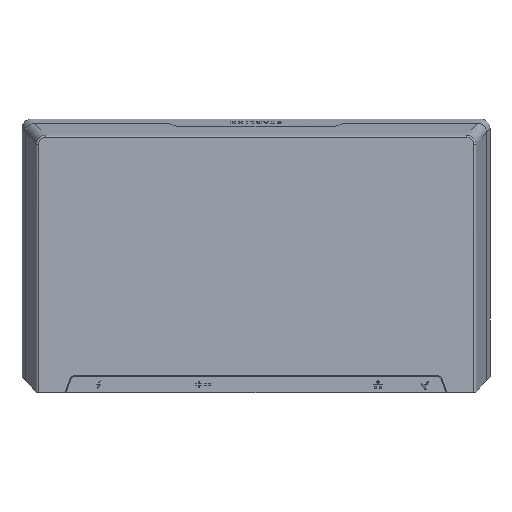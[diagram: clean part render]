
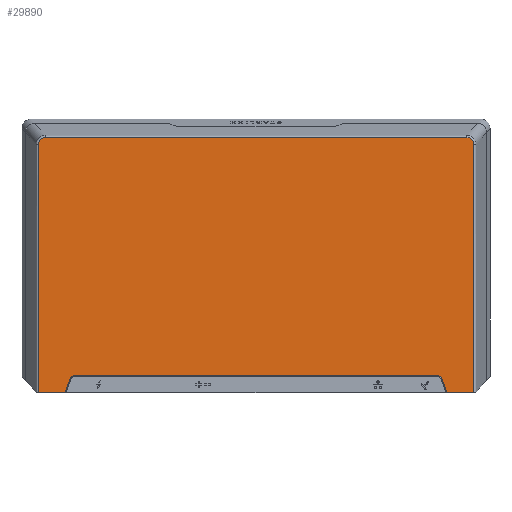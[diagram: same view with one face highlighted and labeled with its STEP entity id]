
A CAD part, top view. The second image highlights one B-rep face of the part: STEP entity #29890.
In plain terms, the highlighted planar face has unit normal (0, 0, 1).
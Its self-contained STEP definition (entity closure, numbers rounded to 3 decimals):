
#2070=PLANE('',#130590);
#12308=(
BOUNDED_CURVE()
B_SPLINE_CURVE(2,(#248960,#248961,#248962),.UNSPECIFIED.,.F.,.F.)
B_SPLINE_CURVE_WITH_KNOTS((3,3),(0.,1.),.UNSPECIFIED.)
CURVE()
GEOMETRIC_REPRESENTATION_ITEM()
RATIONAL_B_SPLINE_CURVE((1.,0.816,1.))
REPRESENTATION_ITEM('')
);
#12309=(
BOUNDED_CURVE()
B_SPLINE_CURVE(2,(#248977,#248978,#248979),.UNSPECIFIED.,.F.,.F.)
B_SPLINE_CURVE_WITH_KNOTS((3,3),(0.,1.),.UNSPECIFIED.)
CURVE()
GEOMETRIC_REPRESENTATION_ITEM()
RATIONAL_B_SPLINE_CURVE((1.,0.816,1.))
REPRESENTATION_ITEM('')
);
#12310=(
BOUNDED_CURVE()
B_SPLINE_CURVE(2,(#248987,#248988,#248989,#248990,#248991),
 .UNSPECIFIED.,.F.,.F.)
B_SPLINE_CURVE_WITH_KNOTS((3,2,3),(0.,0.445,1.),
 .UNSPECIFIED.)
CURVE()
GEOMETRIC_REPRESENTATION_ITEM()
RATIONAL_B_SPLINE_CURVE((1.,0.942,1.,0.915,1.))
REPRESENTATION_ITEM('')
);
#12311=(
BOUNDED_CURVE()
B_SPLINE_CURVE(2,(#248996,#248997,#248998,#248999,#249000),
 .UNSPECIFIED.,.F.,.F.)
B_SPLINE_CURVE_WITH_KNOTS((3,2,3),(0.,0.555,1.),
 .UNSPECIFIED.)
CURVE()
GEOMETRIC_REPRESENTATION_ITEM()
RATIONAL_B_SPLINE_CURVE((1.,0.915,1.,0.942,1.))
REPRESENTATION_ITEM('')
);
#21336=B_SPLINE_CURVE_WITH_KNOTS('',1,(#248953,#248954),.UNSPECIFIED.,.F.,
 .F.,(2,2),(0.,1.),.UNSPECIFIED.);
#21337=B_SPLINE_CURVE_WITH_KNOTS('',1,(#248957,#248958),.UNSPECIFIED.,.F.,
 .F.,(2,2),(0.,1.),.UNSPECIFIED.);
#21338=B_SPLINE_CURVE_WITH_KNOTS('',1,(#248964,#248965),.UNSPECIFIED.,.F.,
 .F.,(2,2),(0.,1.),.UNSPECIFIED.);
#21339=B_SPLINE_CURVE_WITH_KNOTS('',1,(#248969,#248970),.UNSPECIFIED.,.F.,
 .F.,(2,2),(0.,1.),.UNSPECIFIED.);
#21340=B_SPLINE_CURVE_WITH_KNOTS('',1,(#248974,#248975),.UNSPECIFIED.,.F.,
 .F.,(2,2),(0.,1.),.UNSPECIFIED.);
#21341=B_SPLINE_CURVE_WITH_KNOTS('',1,(#248981,#248982),.UNSPECIFIED.,.F.,
 .F.,(2,2),(0.,1.),.UNSPECIFIED.);
#21342=B_SPLINE_CURVE_WITH_KNOTS('',1,(#248984,#248985),.UNSPECIFIED.,.F.,
 .F.,(2,2),(0.,1.),.UNSPECIFIED.);
#21343=B_SPLINE_CURVE_WITH_KNOTS('',1,(#248993,#248994),.UNSPECIFIED.,.F.,
 .F.,(2,2),(0.,1.),.UNSPECIFIED.);
#29890=ADVANCED_FACE('',(#38421),#2070,.T.);
#38421=FACE_OUTER_BOUND('',#46935,.T.);
#46935=EDGE_LOOP('',(#83138,#83139,#83140,#83141,#83142,#83143,#83144,#83145,
#83146,#83147,#83148,#83149,#83150,#83151));
#83138=ORIENTED_EDGE('',*,*,#113748,.F.);
#83139=ORIENTED_EDGE('',*,*,#113749,.F.);
#83140=ORIENTED_EDGE('',*,*,#113750,.F.);
#83141=ORIENTED_EDGE('',*,*,#113751,.F.);
#83142=ORIENTED_EDGE('',*,*,#113752,.F.);
#83143=ORIENTED_EDGE('',*,*,#113753,.F.);
#83144=ORIENTED_EDGE('',*,*,#113754,.F.);
#83145=ORIENTED_EDGE('',*,*,#113755,.F.);
#83146=ORIENTED_EDGE('',*,*,#113756,.F.);
#83147=ORIENTED_EDGE('',*,*,#113757,.F.);
#83148=ORIENTED_EDGE('',*,*,#113758,.F.);
#83149=ORIENTED_EDGE('',*,*,#113759,.F.);
#83150=ORIENTED_EDGE('',*,*,#113760,.F.);
#83151=ORIENTED_EDGE('',*,*,#113761,.F.);
#95278=VERTEX_POINT('',#248955);
#95279=VERTEX_POINT('',#248956);
#95280=VERTEX_POINT('',#248959);
#95281=VERTEX_POINT('',#248963);
#95282=VERTEX_POINT('',#248966);
#95283=VERTEX_POINT('',#248968);
#95284=VERTEX_POINT('',#248971);
#95285=VERTEX_POINT('',#248973);
#95286=VERTEX_POINT('',#248976);
#95287=VERTEX_POINT('',#248980);
#95288=VERTEX_POINT('',#248983);
#95289=VERTEX_POINT('',#248986);
#95290=VERTEX_POINT('',#248992);
#95291=VERTEX_POINT('',#248995);
#113748=EDGE_CURVE('',#95278,#95279,#21336,.T.);
#113749=EDGE_CURVE('',#95280,#95278,#21337,.T.);
#113750=EDGE_CURVE('',#95281,#95280,#12308,.T.);
#113751=EDGE_CURVE('',#95282,#95281,#21338,.T.);
#113752=EDGE_CURVE('',#95283,#95282,#119707,.T.);
#113753=EDGE_CURVE('',#95284,#95283,#21339,.T.);
#113754=EDGE_CURVE('',#95285,#95284,#119708,.T.);
#113755=EDGE_CURVE('',#95286,#95285,#21340,.T.);
#113756=EDGE_CURVE('',#95287,#95286,#12309,.T.);
#113757=EDGE_CURVE('',#95288,#95287,#21341,.T.);
#113758=EDGE_CURVE('',#95289,#95288,#21342,.T.);
#113759=EDGE_CURVE('',#95290,#95289,#12310,.T.);
#113760=EDGE_CURVE('',#95291,#95290,#21343,.T.);
#113761=EDGE_CURVE('',#95279,#95291,#12311,.T.);
#119707=CIRCLE('',#130588,3.75);
#119708=CIRCLE('',#130589,3.75);
#130588=AXIS2_PLACEMENT_3D('',#248967,#152557,#152558);
#130589=AXIS2_PLACEMENT_3D('',#248972,#152559,#152560);
#130590=AXIS2_PLACEMENT_3D('',#249001,#152561,#152562);
#152557=DIRECTION('',(0.,0.,1.));
#152558=DIRECTION('',(0.,1.,0.));
#152559=DIRECTION('',(0.,0.,1.));
#152560=DIRECTION('',(0.94,0.342,0.));
#152561=DIRECTION('',(0.,0.,1.));
#152562=DIRECTION('',(1.,0.,0.));
#248953=CARTESIAN_POINT('',(-146.343,-101.17,26.197));
#248954=CARTESIAN_POINT('',(-146.343,65.639,26.197));
#248955=CARTESIAN_POINT('',(-146.343,-101.17,26.197));
#248956=CARTESIAN_POINT('',(-146.343,65.639,26.197));
#248957=CARTESIAN_POINT('',(-128.836,-101.17,26.197));
#248958=CARTESIAN_POINT('',(-146.343,-101.17,26.197));
#248959=CARTESIAN_POINT('',(-128.836,-101.17,26.197));
#248960=CARTESIAN_POINT('',(-128.354,-100.824,26.197));
#248961=CARTESIAN_POINT('',(-128.48,-101.17,26.197));
#248962=CARTESIAN_POINT('',(-128.836,-101.17,26.197));
#248963=CARTESIAN_POINT('',(-128.354,-100.824,26.197));
#248964=CARTESIAN_POINT('',(-125.102,-91.888,26.197));
#248965=CARTESIAN_POINT('',(-128.354,-100.824,26.197));
#248966=CARTESIAN_POINT('',(-125.102,-91.888,26.197));
#248967=CARTESIAN_POINT('',(-121.578,-93.17,26.197));
#248968=CARTESIAN_POINT('',(-121.578,-89.42,26.197));
#248969=CARTESIAN_POINT('',(121.578,-89.42,26.197));
#248970=CARTESIAN_POINT('',(-121.578,-89.42,26.197));
#248971=CARTESIAN_POINT('',(121.578,-89.42,26.197));
#248972=CARTESIAN_POINT('',(121.578,-93.17,26.197));
#248973=CARTESIAN_POINT('',(125.102,-91.888,26.197));
#248974=CARTESIAN_POINT('',(128.354,-100.824,26.197));
#248975=CARTESIAN_POINT('',(125.102,-91.888,26.197));
#248976=CARTESIAN_POINT('',(128.354,-100.824,26.197));
#248977=CARTESIAN_POINT('',(128.836,-101.17,26.197));
#248978=CARTESIAN_POINT('',(128.48,-101.17,26.197));
#248979=CARTESIAN_POINT('',(128.354,-100.824,26.197));
#248980=CARTESIAN_POINT('',(128.836,-101.17,26.197));
#248981=CARTESIAN_POINT('',(146.343,-101.17,26.197));
#248982=CARTESIAN_POINT('',(128.836,-101.17,26.197));
#248983=CARTESIAN_POINT('',(146.343,-101.17,26.197));
#248984=CARTESIAN_POINT('',(146.343,65.639,26.197));
#248985=CARTESIAN_POINT('',(146.343,-101.17,26.197));
#248986=CARTESIAN_POINT('',(146.343,65.639,26.197));
#248987=CARTESIAN_POINT('',(141.655,70.368,26.197));
#248988=CARTESIAN_POINT('',(143.419,70.368,26.197));
#248989=CARTESIAN_POINT('',(144.723,69.244,26.197));
#248990=CARTESIAN_POINT('',(146.343,67.848,26.197));
#248991=CARTESIAN_POINT('',(146.343,65.639,26.197));
#248992=CARTESIAN_POINT('',(141.655,70.368,26.197));
#248993=CARTESIAN_POINT('',(-141.655,70.368,26.197));
#248994=CARTESIAN_POINT('',(141.655,70.368,26.197));
#248995=CARTESIAN_POINT('',(-141.655,70.368,26.197));
#248996=CARTESIAN_POINT('',(-146.343,65.639,26.197));
#248997=CARTESIAN_POINT('',(-146.343,67.848,26.197));
#248998=CARTESIAN_POINT('',(-144.723,69.244,26.197));
#248999=CARTESIAN_POINT('',(-143.419,70.368,26.197));
#249000=CARTESIAN_POINT('',(-141.655,70.368,26.197));
#249001=CARTESIAN_POINT('',(176.811,-119.524,26.197));
